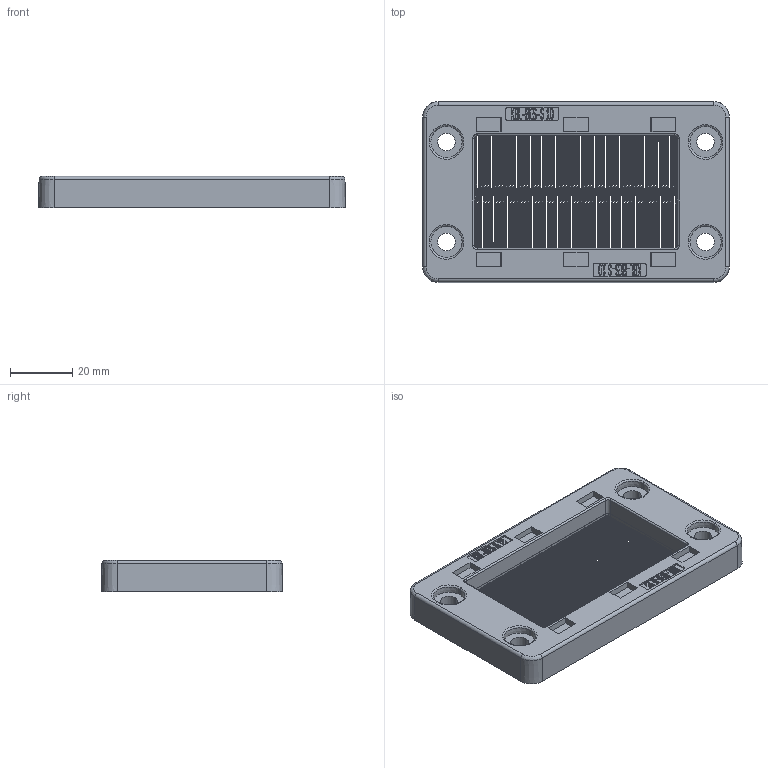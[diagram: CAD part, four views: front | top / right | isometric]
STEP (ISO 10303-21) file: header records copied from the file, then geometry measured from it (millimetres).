
FILE_DESCRIPTION (( 'STEP AP203' ), '1' );
FILE_NAME ('KBL-BES-S10.STEP', '2022-10-11T03:24:44', ( '' ), ( '' ), 'SwSTEP 2.0', 'SolidWorks 2016', '' );
FILE_SCHEMA (( 'CONFIG_CONTROL_DESIGN' ));
Length unit declared in the file: millimetre
Products named in the file (1): KBL-BES-S10
Bounding box: 98.3 x 58 x 10 mm (x, y, z)
Volume: 30979.5 mm3; surface area: 14793.4 mm2
Topology: 1 solids, 1 shells, 1177 faces, 3372 edges, 2240 vertices
Faces by surface type: cylinder 548, plane 473, bspline 144, cone 12
Entity records: 44643 total; most frequent: CARTESIAN_POINT 16238, ORIENTED_EDGE 6744, DIRECTION 4976, EDGE_CURVE 3372, VERTEX_POINT 2240, AXIS2_PLACEMENT_3D 1894, EDGE_LOOP 1490, VECTOR 1188
